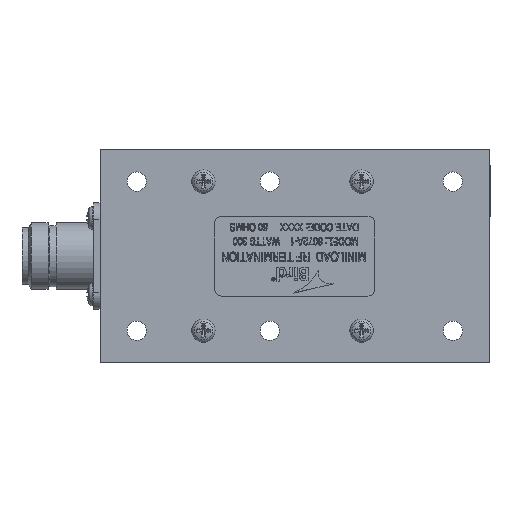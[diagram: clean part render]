
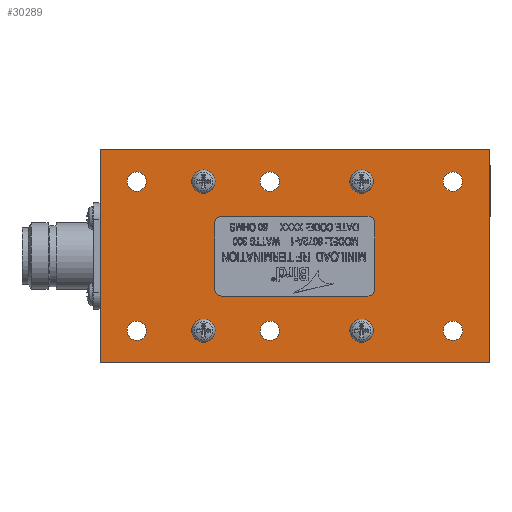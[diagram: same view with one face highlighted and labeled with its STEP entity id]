
A CAD part, front view. The second image highlights one B-rep face of the part: STEP entity #30289.
In plain terms, the highlighted planar face has unit normal (0, -1, 0).
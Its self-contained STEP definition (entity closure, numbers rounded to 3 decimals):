
#1122=CIRCLE('',#30672,2.299);
#1123=CIRCLE('',#30674,2.299);
#1124=CIRCLE('',#30676,2.299);
#1125=CIRCLE('',#30678,2.299);
#1126=CIRCLE('',#30680,2.299);
#1127=CIRCLE('',#30682,2.299);
#1338=CIRCLE('',#31751,2.781);
#1339=CIRCLE('',#31753,2.781);
#1340=CIRCLE('',#31755,1.588);
#1341=CIRCLE('',#31758,1.588);
#1342=CIRCLE('',#31761,1.588);
#1343=CIRCLE('',#31764,1.588);
#1344=CIRCLE('',#31767,2.781);
#1345=CIRCLE('',#31769,2.781);
#5770=ORIENTED_EDGE('',*,*,#9756,.T.);
#5771=ORIENTED_EDGE('',*,*,#9755,.T.);
#5772=ORIENTED_EDGE('',*,*,#9754,.F.);
#5773=ORIENTED_EDGE('',*,*,#9752,.F.);
#5774=ORIENTED_EDGE('',*,*,#9750,.F.);
#5775=ORIENTED_EDGE('',*,*,#9748,.F.);
#5776=ORIENTED_EDGE('',*,*,#9746,.F.);
#5777=ORIENTED_EDGE('',*,*,#9744,.F.);
#5778=ORIENTED_EDGE('',*,*,#9742,.F.);
#5779=ORIENTED_EDGE('',*,*,#9740,.F.);
#5780=ORIENTED_EDGE('',*,*,#7592,.F.);
#5781=ORIENTED_EDGE('',*,*,#7591,.F.);
#5782=ORIENTED_EDGE('',*,*,#7590,.F.);
#5783=ORIENTED_EDGE('',*,*,#7589,.F.);
#5784=ORIENTED_EDGE('',*,*,#7588,.F.);
#5785=ORIENTED_EDGE('',*,*,#7587,.F.);
#5786=ORIENTED_EDGE('',*,*,#7569,.T.);
#5787=ORIENTED_EDGE('',*,*,#7548,.T.);
#5788=ORIENTED_EDGE('',*,*,#7551,.T.);
#5789=ORIENTED_EDGE('',*,*,#7593,.T.);
#5790=ORIENTED_EDGE('',*,*,#9738,.T.);
#5791=ORIENTED_EDGE('',*,*,#9737,.T.);
#7548=EDGE_CURVE('',#10637,#10636,#12729,.T.);
#7551=EDGE_CURVE('',#10636,#10638,#12732,.T.);
#7569=EDGE_CURVE('',#10656,#10637,#12742,.T.);
#7587=EDGE_CURVE('',#10672,#10672,#1122,.T.);
#7588=EDGE_CURVE('',#10673,#10673,#1123,.T.);
#7589=EDGE_CURVE('',#10674,#10674,#1124,.T.);
#7590=EDGE_CURVE('',#10675,#10675,#1125,.T.);
#7591=EDGE_CURVE('',#10676,#10676,#1126,.T.);
#7592=EDGE_CURVE('',#10677,#10677,#1127,.T.);
#7593=EDGE_CURVE('',#10638,#10656,#12750,.T.);
#9737=EDGE_CURVE('',#12137,#12137,#1338,.F.);
#9738=EDGE_CURVE('',#12138,#12138,#1339,.F.);
#9740=EDGE_CURVE('',#12139,#12140,#1340,.T.);
#9742=EDGE_CURVE('',#12140,#12141,#14334,.T.);
#9744=EDGE_CURVE('',#12141,#12142,#1341,.T.);
#9746=EDGE_CURVE('',#12142,#12143,#14337,.T.);
#9748=EDGE_CURVE('',#12143,#12144,#1342,.T.);
#9750=EDGE_CURVE('',#12144,#12145,#14340,.T.);
#9752=EDGE_CURVE('',#12145,#12146,#1343,.T.);
#9754=EDGE_CURVE('',#12146,#12139,#14343,.T.);
#9755=EDGE_CURVE('',#12147,#12147,#1344,.F.);
#9756=EDGE_CURVE('',#12148,#12148,#1345,.F.);
#10636=VERTEX_POINT('',#37041);
#10637=VERTEX_POINT('',#37043);
#10638=VERTEX_POINT('',#37047);
#10656=VERTEX_POINT('',#37085);
#10672=VERTEX_POINT('',#37121);
#10673=VERTEX_POINT('',#37124);
#10674=VERTEX_POINT('',#37127);
#10675=VERTEX_POINT('',#37130);
#10676=VERTEX_POINT('',#37133);
#10677=VERTEX_POINT('',#37136);
#12137=VERTEX_POINT('',#47102);
#12138=VERTEX_POINT('',#47105);
#12139=VERTEX_POINT('',#47108);
#12140=VERTEX_POINT('',#47110);
#12141=VERTEX_POINT('',#47114);
#12142=VERTEX_POINT('',#47118);
#12143=VERTEX_POINT('',#47122);
#12144=VERTEX_POINT('',#47126);
#12145=VERTEX_POINT('',#47130);
#12146=VERTEX_POINT('',#47134);
#12147=VERTEX_POINT('',#47140);
#12148=VERTEX_POINT('',#47143);
#12729=LINE('',#37042,#14763);
#12732=LINE('',#37049,#14766);
#12742=LINE('',#37084,#14776);
#12750=LINE('',#37138,#14784);
#14334=LINE('',#47113,#16368);
#14337=LINE('',#47121,#16371);
#14340=LINE('',#47129,#16374);
#14343=LINE('',#47137,#16377);
#14763=VECTOR('',#32105,1000.);
#14766=VECTOR('',#32110,1000.);
#14776=VECTOR('',#32138,1000.);
#14784=VECTOR('',#32194,1000.);
#16368=VECTOR('',#35924,1000.);
#16371=VECTOR('',#35933,1000.);
#16374=VECTOR('',#35942,1000.);
#16377=VECTOR('',#35951,1000.);
#17861=EDGE_LOOP('',(#5770));
#17862=EDGE_LOOP('',(#5771));
#17863=EDGE_LOOP('',(#5772,#5773,#5774,#5775,#5776,#5777,#5778,#5779));
#17864=EDGE_LOOP('',(#5780));
#17865=EDGE_LOOP('',(#5781));
#17866=EDGE_LOOP('',(#5782));
#17867=EDGE_LOOP('',(#5783));
#17868=EDGE_LOOP('',(#5784));
#17869=EDGE_LOOP('',(#5785));
#17870=EDGE_LOOP('',(#5786,#5787,#5788,#5789));
#17871=EDGE_LOOP('',(#5790));
#17872=EDGE_LOOP('',(#5791));
#19352=FACE_BOUND('',#17861,.T.);
#19353=FACE_BOUND('',#17862,.T.);
#19354=FACE_BOUND('',#17863,.T.);
#19355=FACE_BOUND('',#17864,.T.);
#19356=FACE_BOUND('',#17865,.T.);
#19357=FACE_BOUND('',#17866,.T.);
#19358=FACE_BOUND('',#17867,.T.);
#19359=FACE_BOUND('',#17868,.T.);
#19360=FACE_BOUND('',#17869,.T.);
#19361=FACE_BOUND('',#17870,.T.);
#19362=FACE_BOUND('',#17871,.T.);
#19363=FACE_BOUND('',#17872,.T.);
#20447=PLANE('',#31781);
#30289=ADVANCED_FACE('',(#19352,#19353,#19354,#19355,#19356,#19357,#19358,
#19359,#19360,#19361,#19362,#19363),#20447,.T.);
#30672=AXIS2_PLACEMENT_3D('',#37120,#32170,#32171);
#30674=AXIS2_PLACEMENT_3D('',#37123,#32174,#32175);
#30676=AXIS2_PLACEMENT_3D('',#37126,#32178,#32179);
#30678=AXIS2_PLACEMENT_3D('',#37129,#32182,#32183);
#30680=AXIS2_PLACEMENT_3D('',#37132,#32186,#32187);
#30682=AXIS2_PLACEMENT_3D('',#37135,#32190,#32191);
#31751=AXIS2_PLACEMENT_3D('',#47101,#35910,#35911);
#31753=AXIS2_PLACEMENT_3D('',#47104,#35914,#35915);
#31755=AXIS2_PLACEMENT_3D('',#47109,#35919,#35920);
#31758=AXIS2_PLACEMENT_3D('',#47117,#35928,#35929);
#31761=AXIS2_PLACEMENT_3D('',#47125,#35937,#35938);
#31764=AXIS2_PLACEMENT_3D('',#47133,#35946,#35947);
#31767=AXIS2_PLACEMENT_3D('',#47139,#35954,#35955);
#31769=AXIS2_PLACEMENT_3D('',#47142,#35958,#35959);
#31781=AXIS2_PLACEMENT_3D('',#47174,#35993,#35994);
#32105=DIRECTION('',(1.,0.,0.));
#32110=DIRECTION('',(0.,0.,1.));
#32138=DIRECTION('',(0.,0.,-1.));
#32170=DIRECTION('',(0.,-1.,0.));
#32171=DIRECTION('',(1.,0.,0.));
#32174=DIRECTION('',(0.,-1.,0.));
#32175=DIRECTION('',(1.,0.,0.));
#32178=DIRECTION('',(0.,-1.,0.));
#32179=DIRECTION('',(1.,0.,0.));
#32182=DIRECTION('',(0.,-1.,0.));
#32183=DIRECTION('',(1.,0.,0.));
#32186=DIRECTION('',(0.,-1.,0.));
#32187=DIRECTION('',(1.,0.,0.));
#32190=DIRECTION('',(0.,-1.,0.));
#32191=DIRECTION('',(1.,0.,0.));
#32194=DIRECTION('',(-1.,0.,0.));
#35910=DIRECTION('',(0.,-1.,0.));
#35911=DIRECTION('',(0.,0.,-1.));
#35914=DIRECTION('',(0.,-1.,0.));
#35915=DIRECTION('',(0.,0.,-1.));
#35919=DIRECTION('',(0.,-1.,0.));
#35920=DIRECTION('',(0.,0.,-1.));
#35924=DIRECTION('',(0.,0.,1.));
#35928=DIRECTION('',(0.,-1.,0.));
#35929=DIRECTION('',(0.,0.,-1.));
#35933=DIRECTION('',(-1.,0.,0.));
#35937=DIRECTION('',(0.,-1.,0.));
#35938=DIRECTION('',(0.,0.,-1.));
#35942=DIRECTION('',(0.,0.,-1.));
#35946=DIRECTION('',(0.,-1.,0.));
#35947=DIRECTION('',(0.,0.,-1.));
#35951=DIRECTION('',(1.,0.,0.));
#35954=DIRECTION('',(0.,-1.,0.));
#35955=DIRECTION('',(0.,0.,-1.));
#35958=DIRECTION('',(0.,-1.,0.));
#35959=DIRECTION('',(0.,0.,-1.));
#35993=DIRECTION('',(0.,-1.,0.));
#35994=DIRECTION('',(0.,0.,-1.));
#37041=CARTESIAN_POINT('',(92.837,-26.213,-25.4));
#37042=CARTESIAN_POINT('',(0.,-26.213,-25.4));
#37043=CARTESIAN_POINT('',(0.,-26.213,-25.4));
#37047=CARTESIAN_POINT('',(92.837,-26.213,25.4));
#37049=CARTESIAN_POINT('',(92.837,-26.213,-25.4));
#37084=CARTESIAN_POINT('',(0.,-26.213,25.4));
#37085=CARTESIAN_POINT('',(0.,-26.213,25.4));
#37120=CARTESIAN_POINT('',(8.738,-26.213,17.78));
#37121=CARTESIAN_POINT('',(11.036,-26.213,17.78));
#37123=CARTESIAN_POINT('',(40.488,-26.213,17.78));
#37124=CARTESIAN_POINT('',(42.786,-26.213,17.78));
#37126=CARTESIAN_POINT('',(84.15,-26.213,17.78));
#37127=CARTESIAN_POINT('',(86.449,-26.213,17.78));
#37129=CARTESIAN_POINT('',(84.15,-26.213,-17.78));
#37130=CARTESIAN_POINT('',(86.449,-26.213,-17.78));
#37132=CARTESIAN_POINT('',(40.488,-26.213,-17.78));
#37133=CARTESIAN_POINT('',(42.786,-26.213,-17.78));
#37135=CARTESIAN_POINT('',(8.738,-26.213,-17.78));
#37136=CARTESIAN_POINT('',(11.036,-26.213,-17.78));
#37138=CARTESIAN_POINT('',(92.837,-26.213,25.4));
#47101=CARTESIAN_POINT('',(24.638,-26.213,17.78));
#47102=CARTESIAN_POINT('',(24.638,-26.213,14.999));
#47104=CARTESIAN_POINT('',(62.357,-26.213,-17.78));
#47105=CARTESIAN_POINT('',(62.357,-26.213,-20.561));
#47108=CARTESIAN_POINT('',(63.881,-26.213,-9.525));
#47109=CARTESIAN_POINT('',(63.881,-26.213,-7.938));
#47110=CARTESIAN_POINT('',(65.469,-26.213,-7.938));
#47113=CARTESIAN_POINT('',(65.469,-26.213,-9.525));
#47114=CARTESIAN_POINT('',(65.469,-26.213,7.938));
#47117=CARTESIAN_POINT('',(63.881,-26.213,7.938));
#47118=CARTESIAN_POINT('',(63.881,-26.213,9.525));
#47121=CARTESIAN_POINT('',(65.469,-26.213,9.525));
#47122=CARTESIAN_POINT('',(28.956,-26.213,9.525));
#47125=CARTESIAN_POINT('',(28.956,-26.213,7.938));
#47126=CARTESIAN_POINT('',(27.369,-26.213,7.938));
#47129=CARTESIAN_POINT('',(27.369,-26.213,9.525));
#47130=CARTESIAN_POINT('',(27.369,-26.213,-7.938));
#47133=CARTESIAN_POINT('',(28.956,-26.213,-7.938));
#47134=CARTESIAN_POINT('',(28.956,-26.213,-9.525));
#47137=CARTESIAN_POINT('',(27.369,-26.213,-9.525));
#47139=CARTESIAN_POINT('',(24.638,-26.213,-17.78));
#47140=CARTESIAN_POINT('',(24.638,-26.213,-20.561));
#47142=CARTESIAN_POINT('',(62.357,-26.213,17.78));
#47143=CARTESIAN_POINT('',(62.357,-26.213,14.999));
#47174=CARTESIAN_POINT('',(0.,-26.213,-25.4));
